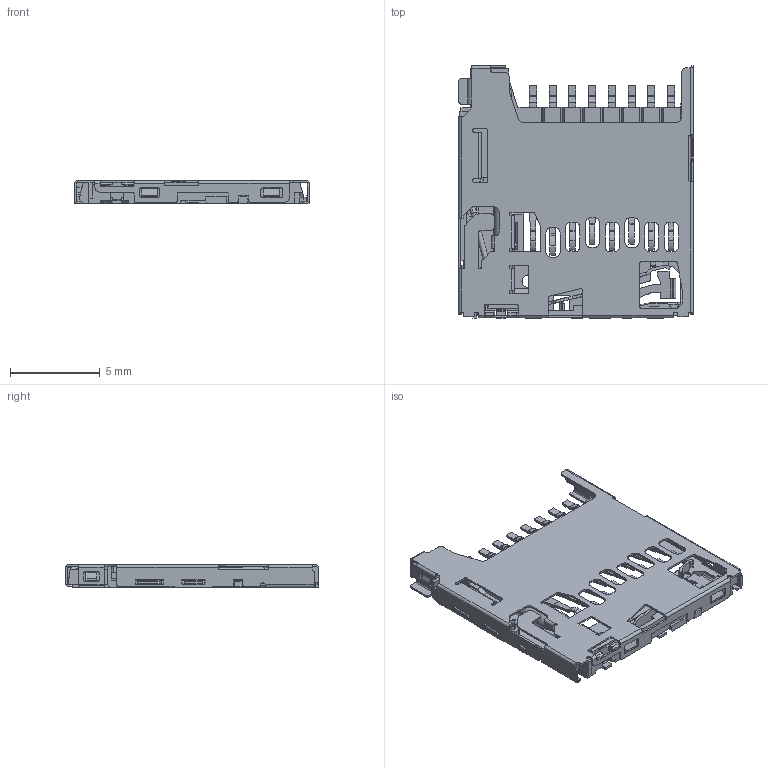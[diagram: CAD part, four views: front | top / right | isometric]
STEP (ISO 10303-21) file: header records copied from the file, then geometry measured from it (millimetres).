
FILE_DESCRIPTION(('FreeCAD Model'),'2;1');
FILE_NAME('Open CASCADE Shape Model','2026-08-04T13:32:42',('Author'),( ''),'Open CASCADE STEP processor 7.8','FreeCAD','Unknown');
FILE_SCHEMA(('AUTOMOTIVE_DESIGN { 1 0 10303 214 1 1 1 1 }'));
Length unit declared in the file: millimetre
Products named in the file (1): TF-SMD_503398-1892~TF-SMD_503398-1892~jnnQ
Bounding box: 13.1 x 14.05 x 1.28 mm (x, y, z)
Volume: 65.9 mm3; surface area: 746.9 mm2
Topology: 1 solids, 1 shells, 1459 faces, 4205 edges, 2727 vertices
Faces by surface type: plane 1055, cylinder 373, cone 18, torus 9, sphere 4
Entity records: 57848 total; most frequent: CARTESIAN_POINT 8615, ORIENTED_EDGE 8402, DIRECTION 7872, EDGE_CURVE 4201, LINE 3348, VECTOR 3348, VERTEX_POINT 2727, AXIS2_PLACEMENT_3D 2262
